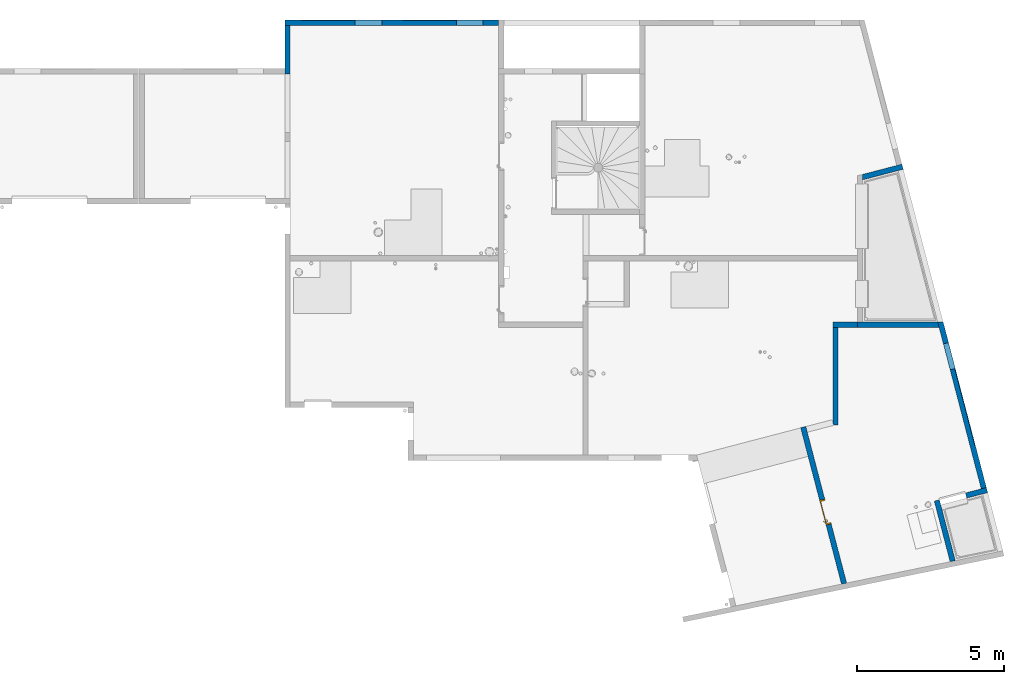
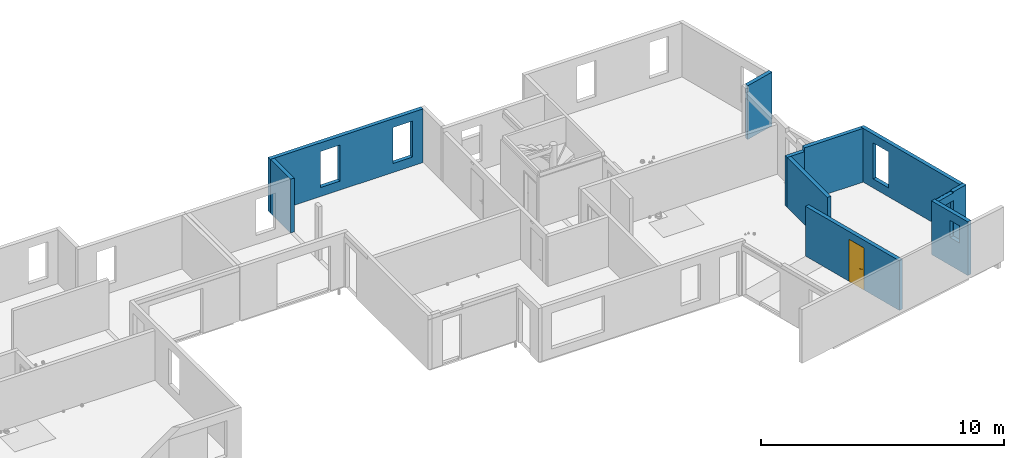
# One storey, part 18 of 30: 10 walls, 1 door, 14 openings.
"""IFC2X3 building model written with IfcOpenShell, lengths in centimetres."""

from ifc_helpers import new_model, entity, si_unit, converted_unit, derived_unit, direction, frame, frame_2d, origin, place, context, subcontext, project, spatial, polyline, rectangle, outline, extrude, faceted_brep, source, transform, mapped, material, material_list, layer, layer_set, layer_usage, type_object, type_shapes, element, fill, save


model = new_model("IFC2X3")

# Units and contexts
model_context = context("Model", 3, precision=0.001, world=origin(), true_north=direction((6.12303176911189e-17, 1.0)))
body_context = subcontext(model_context, "Body", "Model", "MODEL_VIEW")
ifc_project = project(units=[si_unit("LENGTHUNIT", "METRE", prefix="CENTI"), si_unit("AREAUNIT", "SQUARE_METRE"), si_unit("VOLUMEUNIT", "CUBIC_METRE"), converted_unit("PLANEANGLEUNIT", "DEGREE", entity("IfcRatioMeasure", 0.0174532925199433), si_unit("PLANEANGLEUNIT", "RADIAN"), dimensions=[0, 0, 0, 0, 0, 0, 0]), si_unit("MASSUNIT", "GRAM", prefix="KILO"), derived_unit("MASSDENSITYUNIT", [(si_unit("MASSUNIT", "GRAM", prefix="KILO"), 1), (si_unit("LENGTHUNIT", "METRE"), -3)]), si_unit("TIMEUNIT", "SECOND"), si_unit("FREQUENCYUNIT", "HERTZ"), si_unit("THERMODYNAMICTEMPERATUREUNIT", "DEGREE_CELSIUS"), derived_unit("THERMALTRANSMITTANCEUNIT", [(si_unit("MASSUNIT", "GRAM", prefix="KILO"), 1), (si_unit("THERMODYNAMICTEMPERATUREUNIT", "KELVIN"), -1), (si_unit("TIMEUNIT", "SECOND"), -3)]), derived_unit("VOLUMETRICFLOWRATEUNIT", [(si_unit("LENGTHUNIT", "METRE"), 3), (si_unit("TIMEUNIT", "SECOND"), -1)]), si_unit("ELECTRICCURRENTUNIT", "AMPERE"), si_unit("ELECTRICVOLTAGEUNIT", "VOLT"), si_unit("POWERUNIT", "WATT"), si_unit("FORCEUNIT", "NEWTON"), si_unit("ILLUMINANCEUNIT", "LUX"), si_unit("LUMINOUSFLUXUNIT", "LUMEN"), si_unit("LUMINOUSINTENSITYUNIT", "CANDELA"), derived_unit("USERDEFINED", [(si_unit("MASSUNIT", "GRAM", prefix="KILO"), -1), (si_unit("LENGTHUNIT", "METRE"), -2), (si_unit("TIMEUNIT", "SECOND"), 3), (si_unit("LUMINOUSFLUXUNIT", "LUMEN"), 1)]), derived_unit("LINEARVELOCITYUNIT", [(si_unit("LENGTHUNIT", "METRE"), 1), (si_unit("TIMEUNIT", "SECOND"), -1)]), si_unit("PRESSUREUNIT", "PASCAL"), derived_unit("USERDEFINED", [(si_unit("LENGTHUNIT", "METRE"), -2), (si_unit("MASSUNIT", "GRAM", prefix="KILO"), 1), (si_unit("TIMEUNIT", "SECOND"), -2)])], contexts=[model_context])

# Site, building, storey
site_placement = place(None, origin())
site = spatial("IfcSite", under=ifc_project, at=site_placement, Name="Default", CompositionType="ELEMENT")
building_placement = place(site_placement, origin())
building = spatial("IfcBuilding", under=site, at=building_placement, Name="CAGE 03", CompositionType="ELEMENT")
storey_placement = place(building_placement, frame((0.0, 0.0, 610.0)))
storey = spatial("IfcBuildingStorey", under=building, at=storey_placement, Name="R+2", CompositionType="ELEMENT", Elevation=610.0)

# Wall, openings
ifc_material_1 = material(Name="Béton, C25/30")
ifc_layer = layer(ifc_material_1, 18.0)
ifc_layer_set = layer_set([ifc_layer], Name="Mur de base:Voile BA 18")
ifc_layer_usage_1 = layer_usage(ifc_layer_set, "AXIS2", "POSITIVE", -9.0)
wall_type = type_object("IfcWallType", Name="Mur de base:Voile BA 18", PredefinedType="STANDARD", material=ifc_layer_set)
wall_1_placement = place(storey_placement, frame((11554.520882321, 3453.61460927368, 0.0), z_axis=(0.0, 0.0, 1.0), x_axis=(-0.252679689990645, 0.967549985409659, 0.0)))
wall_1 = element("IfcWallStandardCase", 1, at=wall_1_placement, inside=storey, type_object=wall_type, material=ifc_layer_usage_1, Name="Mur de base:Voile BA 18", ObjectType="Mur de base:Voile BA 18", context=body_context, shape_type="SweptSolid", body=[
    extrude(outline(polyline([(0.940291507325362, 9.0), (0.0, -9.0), (195.9684546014, -9.0), (213.9684546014, -9.0), (213.9684546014, 9.0), (0.940291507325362, 9.0)])), origin(), (0.0, 0.0, 1.0), 270.0),
])
opening_1_placement = place(wall_1_placement, origin())
element("IfcOpeningElement", 2, at=opening_1_placement, cuts=wall_1, Name="Mur de base:Voile BA 18", ObjectType="Opening", context=body_context, shape_type="SweptSolid", body=[
    extrude(rectangle(XDim=226.0, YDim=18.0000000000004, at=frame_2d((-4.2810199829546e-13, 5.6843418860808e-14), x_axis=(0.0, 1.0))), frame((204.968454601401, -100.0, 113.0), z_axis=(0.0, 1.0, 0.0), x_axis=(1.0, 0.0, 0.0)), (0.0, 0.0, 1.0), 91.0000000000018),
])
opening_2_placement = place(wall_1_placement, origin())
element("IfcOpeningElement", 3, at=opening_2_placement, cuts=wall_1, Name="Mur de base:Voile BA 18", ObjectType="Opening", context=body_context, shape_type="SweptSolid", body=[
    extrude(rectangle(XDim=226.0, YDim=18.0000000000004, at=frame_2d((-4.2810199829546e-13, 1.13686837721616e-13), x_axis=(0.0, 1.0))), frame((204.968454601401, -100.0, 383.0), z_axis=(0.0, 1.0, 0.0), x_axis=(1.0, 0.0, 0.0)), (0.0, 0.0, 1.0), 91.0000000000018),
])
opening_3_placement = place(wall_1_placement, frame((-421.952010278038, 12052.2347799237, 0.0), z_axis=(0.0, 0.0, 1.0), x_axis=(-0.252679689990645, -0.967549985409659, 0.0)))
element("IfcOpeningElement", 4, at=opening_3_placement, cuts=wall_1, Name="Mur de base:Voile BA 18", ObjectType="Opening", context=body_context, shape_type="SweptSolid", body=[
    extrude(rectangle(XDim=85.9999999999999, YDim=54.9999999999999, at=frame_2d((0.0, -4.2810199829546e-13), x_axis=(1.0, 0.0))), frame((11691.1087448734, 3569.35171335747, 183.0), z_axis=(-0.967549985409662, -0.252679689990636, 0.0), x_axis=(0.0, 0.0, 1.0)), (0.0, 0.0, 1.0), 304.799999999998),
])

ifc_layer_usage_2 = layer_usage(ifc_layer_set, "AXIS2", "POSITIVE", -9.0)
wall_2_placement = place(storey_placement, frame((11511.4374666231, 3654.20595174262, 0.0), z_axis=(0.0, 0.0, 1.0), x_axis=(0.967549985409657, 0.252679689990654, 0.0)))
wall_2 = element("IfcWallStandardCase", 5, at=wall_2_placement, inside=storey, type_object=wall_type, material=ifc_layer_usage_2, Name="Mur de base:Voile BA 18", ObjectType="Mur de base:Voile BA 18", context=body_context, shape_type="SweptSolid", body=[
    extrude(rectangle(XDim=165.000000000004, YDim=17.9999999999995, at=frame_2d((82.5000000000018, -2.64677169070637e-13), x_axis=(-1.0, 0.0))), origin(), (0.0, 0.0, 1.0), 270.0),
])
opening_4_placement = place(wall_2_placement, frame((-5.86752552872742, -7.46767138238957, 265.0)))
element("IfcOpeningElement", 6, at=opening_4_placement, cuts=wall_2, Name="Mur de base:Voile BA 18", ObjectType="Opening", context=body_context, shape_type="Brep", body=[
    faceted_brep([(5.86752552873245, 22.4676713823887, 2.50000000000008), (5.8675255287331, 15.4676713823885, 0.971325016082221), (5.8675255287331, 15.4676713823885, 0.0), (5.86752552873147, -1.53232861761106, 0.0), (5.86752552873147, -1.53232861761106, 5.0), (5.86752552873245, 22.4676713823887, 5.0), (96.8675255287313, 22.4676713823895, 2.50000000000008), (96.8675255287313, 22.4676713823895, 5.0), (96.8675255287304, -1.53232861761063, 5.0), (96.8675255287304, -1.53232861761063, 0.0), (96.8675255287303, 15.4676713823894, 0.0), (96.8675255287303, 15.4676713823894, 0.971325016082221)], [[[0, 1, 2, 3, 4, 5]], [[6, 7, 8, 9, 10, 11]], [[4, 3, 9, 8]], [[5, 4, 8, 7]], [[0, 5, 7, 6]], [[1, 0, 6, 11]], [[2, 1, 11, 10]], [[3, 2, 10, 9]]]),
])
opening_5_placement = place(wall_2_placement, origin())
element("IfcOpeningElement", 7, at=opening_5_placement, cuts=wall_2, Name="Mur de base:Voile BA 18", ObjectType="Opening", context=body_context, shape_type="SweptSolid", body=[
    extrude(rectangle(XDim=226.0, YDim=90.9999999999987, at=frame_2d((5.6843418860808e-14, -1.13686837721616e-13), x_axis=(0.0, 1.0))), frame((45.5000000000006, -161.4, 383.0), z_axis=(0.0, 1.0, 0.0), x_axis=(-1.0, 0.0, 0.0)), (0.0, 0.0, 1.0), 304.799999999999),
])
opening_6_placement = place(wall_2_placement, frame((-12061.2347799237, -626.920464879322, 0.0), z_axis=(0.0, 0.0, 1.0), x_axis=(0.967549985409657, -0.252679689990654, 0.0)))
element("IfcOpeningElement", 8, at=opening_6_placement, cuts=wall_2, Name="Mur de base:Voile BA 18", ObjectType="Opening", context=body_context, shape_type="SweptSolid", body=[
    extrude(rectangle(XDim=226.0, YDim=90.9999999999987, at=frame_2d((5.6843418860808e-14, -5.6843418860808e-14), x_axis=(0.0, 1.0))), frame((11596.2434929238, 3509.54030999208, 113.0), z_axis=(-0.252679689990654, 0.967549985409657, 0.0), x_axis=(-0.967549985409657, -0.252679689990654, 0.0)), (0.0, 0.0, 1.0), 304.799999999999),
])

ifc_layer_usage_3 = layer_usage(ifc_layer_set, "AXIS2", "POSITIVE", -9.0)
wall_3_placement = place(storey_placement, frame((11660.1011471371, 3702.33193324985, 0.0), z_axis=(0.0, 0.0, 1.0), x_axis=(-0.25267968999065, 0.967549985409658, 0.0)))
wall_3 = element("IfcWallStandardCase", 9, at=wall_3_placement, inside=storey, type_object=wall_type, material=ifc_layer_usage_3, Name="Mur de base:Voile BA 18", ObjectType="Mur de base:Voile BA 18", context=body_context, shape_type="SweptSolid", body=[
    extrude(outline(polyline([(580.904991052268, -9.0), (585.605765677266, 9.0), (567.002075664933, 9.0), (0.0, 9.0), (0.0, -9.0), (580.904991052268, -9.0)])), origin(), (0.0, 0.0, 1.0), 270.0),
])
opening_7_placement = place(wall_3_placement, origin())
element("IfcOpeningElement", 10, at=opening_7_placement, cuts=wall_3, Name="Mur de base:Voile BA 18", ObjectType="Recess", context=body_context, shape_type="SweptSolid", body=[
    extrude(rectangle(XDim=181.0, YDim=273.0, at=frame_2d((-2.1316282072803e-13, 1.06581410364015e-13), x_axis=(0.0, 1.0))), frame((281.500000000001, -9.0, 135.5), z_axis=(0.0, 1.0, 0.0), x_axis=(1.0, 0.0, 0.0)), (0.0, 0.0, 1.0), 1.99999999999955),
])
opening_8_placement = place(wall_3_placement, origin())
element("IfcOpeningElement", 11, at=opening_8_placement, cuts=wall_3, Name="Mur de base:Voile BA 18", ObjectType="Recess", context=body_context, shape_type="SweptSolid", body=[
    extrude(rectangle(XDim=181.0, YDim=184.0, at=frame_2d((4.2632564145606e-13, 5.6843418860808e-14), x_axis=(0.0, 1.0))), frame((1374.0, -9.0, 135.5), z_axis=(0.0, 1.0, 0.0), x_axis=(1.0, 0.0, 0.0)), (0.0, 0.0, 1.0), 2.00000000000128),
])
opening_9_placement = place(wall_3_placement, frame((-635.920464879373, 12217.2347799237, 0.0), z_axis=(0.0, 0.0, 1.0), x_axis=(-0.25267968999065, -0.967549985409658, 0.0)))
element("IfcOpeningElement", 12, at=opening_9_placement, cuts=wall_3, Name="Mur de base:Voile BA 18", ObjectType="Opening", context=body_context, shape_type="SweptSolid", body=[
    extrude(rectangle(XDim=181.0, YDim=91.0000000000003, at=frame_2d((0.0, -2.16715534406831e-13), x_axis=(1.0, 0.0))), frame((11699.1466784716, 4191.57385345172, 135.5), z_axis=(-0.967549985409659, -0.252679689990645, 0.0), x_axis=(0.0, 0.0, 1.0)), (0.0, 0.0, 1.0), 304.8),
])

# Walls
ifc_layer_usage_4 = layer_usage(ifc_layer_set, "AXIS2", "POSITIVE", -9.0)
wall_4_placement = place(storey_placement, frame((11508.1232885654, 4257.66066607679, 0.0), z_axis=(0.0, 0.0, 1.0), x_axis=(-1.0, 0.0, 0.0)))
element("IfcWallStandardCase", 13, at=wall_4_placement, inside=storey, type_object=wall_type, material=ifc_layer_usage_4, Name="Mur de base:Voile BA 18", ObjectType="Mur de base:Voile BA 18", context=body_context, shape_type="SweptSolid", body=[
    extrude(outline(polyline([(277.7574684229, -9.0), (277.7574684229, 9.0), (0.0, 9.0), (4.70077462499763, -9.0), (259.7574684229, -9.0), (277.7574684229, -9.0)])), origin(), (0.0, 0.0, 1.0), 270.0),
])
ifc_layer_usage_5 = layer_usage(ifc_layer_set, "AXIS2", "POSITIVE", -9.0)
wall_5_placement = place(storey_placement, frame((11155.8658201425, 4248.66066607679, 0.0), z_axis=(0.0, 0.0, 1.0), x_axis=(0.0, -1.0, 0.0)))
element("IfcWallStandardCase", 14, at=wall_5_placement, inside=storey, type_object=wall_type, material=ifc_layer_usage_5, Name="Mur de base:Voile BA 18", ObjectType="Mur de base:Voile BA 18", context=body_context, shape_type="SweptSolid", body=[
    extrude(rectangle(XDim=331.0, YDim=17.9999999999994, at=frame_2d((165.5, 4.11226608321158e-13), x_axis=(-1.0, 0.0))), origin(), (0.0, 0.0, 1.0), 250.0),
])

# Wall, opening, door
ifc_layer_usage_6 = layer_usage(ifc_layer_set, "AXIS2", "POSITIVE", -9.0)
wall_6_placement = place(storey_placement, frame((11046.2188604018, 3909.95367592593, 0.0), z_axis=(0.0, 0.0, 1.0), x_axis=(0.252679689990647, -0.967549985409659, 0.0)))
wall_6 = element("IfcWallStandardCase", 15, at=wall_6_placement, inside=storey, type_object=wall_type, material=ifc_layer_usage_6, Name="Mur de base:Voile BA 18", ObjectType="Mur de base:Voile BA 18", context=body_context, shape_type="SweptSolid", body=[
    extrude(outline(polyline([(0.0, -9.0), (549.360399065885, -9.0), (550.300690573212, 9.0), (0.0, 9.0), (0.0, -9.0)])), origin(), (0.0, 0.0, 1.0), 250.0),
])
opening_10_placement = place(wall_6_placement, frame((342.0, 9.0, 0.0)))
opening_10 = element("IfcOpeningElement", 16, at=opening_10_placement, cuts=wall_6, Name="Int. Simple:HB83:1", ObjectType="Opening", context=body_context, shape_type="SweptSolid", body=[
    extrude(rectangle(XDim=210.000000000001, YDim=86.9999999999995, at=frame_2d((105.000000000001, 43.4999999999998), x_axis=(1.0, 0.0))), frame((0.0, 0.0, 0.0), z_axis=(0.0, -1.0, 0.0), x_axis=(0.0, 0.0, 1.0)), (0.0, 0.0, 1.0), 18.0),
])
ifc_material_2 = material(Name="Finition Peinture - Blanc satiné")
ifc_material_3 = material(Name="Bois - Panneau de porte")
ifc_material_4 = material(Name="Bois - Cadre de porte")
ifc_material_list_1 = material_list([ifc_material_2, ifc_material_3, ifc_material_4])
ifc_material_list_2 = material_list([ifc_material_2, ifc_material_3, ifc_material_4])
door_style = type_object("IfcDoorStyle", Name="HB83", ConstructionType="NOTDEFINED", OperationType="SINGLE_SWING_RIGHT", ParameterTakesPrecedence=False, Sizeable=False, material=ifc_material_list_2)
shared_shape = source(origin(), body_context, "Body", "Brep", [
    faceted_brep([(86.5000000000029, -0.500000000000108, 87.0), (86.5000000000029, -0.500000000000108, 108.0), (85.535276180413, -0.500000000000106, 108.399601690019), (84.5000000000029, -0.500000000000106, 108.535898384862), (83.4647238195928, -0.500000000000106, 108.399601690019), (82.500000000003, -0.500000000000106, 108.0), (82.5000000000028, -0.500000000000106, 87.0), (83.4647238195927, -0.500000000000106, 86.6003983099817), (84.5000000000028, -0.500000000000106, 86.464101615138), (85.5352761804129, -0.500000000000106, 86.6003983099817), (86.5000000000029, 0.0, 108.0), (86.5000000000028, 0.0, 87.0), (85.5352761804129, 0.0, 86.6003983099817), (84.5000000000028, 0.0, 86.464101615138), (83.4647238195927, 0.0, 86.6003983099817), (82.5000000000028, 0.0, 87.0), (82.500000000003, 0.0, 108.0), (83.4647238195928, 0.0, 108.399601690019), (84.5000000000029, 0.0, 108.535898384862), (85.535276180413, 0.0, 108.399601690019)], [[[0, 1, 2, 3, 4, 5, 6, 7, 8, 9]], [[10, 11, 12, 13, 14, 15, 16, 17, 18, 19]], [[9, 12, 11, 0]], [[8, 13, 12, 9]], [[7, 14, 13, 8]], [[7, 6, 15, 14]], [[15, 6, 5, 16]], [[4, 17, 16, 5]], [[3, 18, 17, 4]], [[2, 19, 18, 3]], [[2, 1, 10, 19]], [[11, 10, 1, 0]]]),
    faceted_brep([(86.5000000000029, 3.0, 87.0), (86.5000000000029, 3.0, 108.0), (85.535276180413, 3.0, 108.399601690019), (84.500000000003, 3.0, 108.535898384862), (83.4647238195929, 3.0, 108.399601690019), (82.500000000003, 3.0, 108.0), (82.5000000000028, 3.0, 87.0), (83.4647238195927, 3.0, 86.6003983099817), (84.5000000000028, 3.0, 86.464101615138), (85.5352761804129, 3.0, 86.6003983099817), (84.500000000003, 3.49999999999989, 108.535898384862), (85.535276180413, 3.49999999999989, 108.399601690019), (86.5000000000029, 3.49999999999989, 108.0), (86.5000000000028, 3.49999999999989, 87.0), (85.5352761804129, 3.49999999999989, 86.6003983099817), (84.5000000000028, 3.49999999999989, 86.464101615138), (83.4647238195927, 3.49999999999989, 86.6003983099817), (82.5000000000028, 3.49999999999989, 87.0), (82.500000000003, 3.49999999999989, 108.0), (83.4647238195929, 3.49999999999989, 108.399601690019)], [[[0, 1, 2, 3, 4, 5, 6, 7, 8, 9]], [[10, 11, 12, 13, 14, 15, 16, 17, 18, 19]], [[4, 19, 18, 5]], [[3, 10, 19, 4]], [[2, 11, 10, 3]], [[2, 1, 12, 11]], [[13, 12, 1, 0]], [[9, 14, 13, 0]], [[8, 15, 14, 9]], [[7, 16, 15, 8]], [[7, 6, 17, 16]], [[17, 6, 5, 18]]]),
    faceted_brep([(84.297470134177, -0.500000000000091, 100.778044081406), (84.7025298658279, -0.500000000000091, 100.778044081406), (85.1000000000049, -0.500000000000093, 100.699999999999), (85.1000000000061, -0.500000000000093, 99.299999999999), (84.702529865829, -0.500000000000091, 99.2219559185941), (84.297470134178, -0.500000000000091, 99.2219559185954), (83.9000000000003, -0.500000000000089, 99.3000000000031), (83.9000000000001, -0.500000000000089, 100.7), (84.7025298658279, -3.1004575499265, 100.778044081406), (85.1000000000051, -3.26509507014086, 100.7), (84.297470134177, -2.93267631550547, 100.778044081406), (82.9298602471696, -4.30028620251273, 100.778044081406), (83.0976414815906, -4.70534593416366, 100.778044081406), (83.9000000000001, -2.76803879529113, 100.7), (83.9000000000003, -2.76803879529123, 99.3000000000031), (84.297470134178, -2.93267631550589, 99.2219559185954), (84.702529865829, -3.10045754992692, 99.2219559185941), (83.097641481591, -4.70534593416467, 99.2219559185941), (82.92986024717, -4.30028620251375, 99.2219559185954), (85.1000000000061, -3.26509507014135, 99.299999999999), (83.2622790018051, -5.10281606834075, 100.7), (82.7652227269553, -3.90281606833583, 100.7), (82.7652227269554, -3.90281606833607, 99.3000000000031), (83.2622790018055, -5.10281606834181, 99.299999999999), (74.4981359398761, -5.1028160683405, 100.7), (74.4981359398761, -4.7053459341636, 100.778044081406), (74.4981359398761, -4.30028620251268, 100.778044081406), (74.4981359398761, -3.90281606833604, 100.699999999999), (74.4981359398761, -3.90281606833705, 99.3000000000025), (74.4981359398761, -4.30028620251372, 99.2219559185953), (74.4981359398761, -4.70534593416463, 99.2219559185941), (74.4981359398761, -5.10281606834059, 99.2999999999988), (78.7139980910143, -4.50281606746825, 100.78786867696), (79.2692302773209, -5.10281606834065, 100.7), (78.6316793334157, -3.90281606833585, 100.7), (78.6316793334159, -3.90281606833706, 99.3000000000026), (78.7139981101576, -4.50281607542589, 99.2121313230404), (79.2692299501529, -5.10281606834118, 99.2999999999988)], [[[0, 1, 2, 3, 4, 5, 6, 7]], [[2, 1, 8, 9]], [[1, 0, 10, 11, 12, 8]], [[0, 7, 13, 10]], [[14, 13, 7, 6]], [[5, 15, 14, 6]], [[5, 4, 16, 17, 18, 15]], [[3, 19, 16, 4]], [[9, 19, 3, 2]], [[9, 8, 12, 20]], [[10, 13, 21, 11]], [[22, 21, 13, 14]], [[14, 15, 18, 22]], [[16, 19, 23, 17]], [[20, 23, 19, 9]], [[24, 25, 26, 27, 28, 29, 30, 31]], [[32, 25, 33]], [[33, 25, 24]], [[33, 20, 12]], [[11, 34, 32]], [[34, 11, 21]], [[27, 26, 34]], [[32, 26, 25]], [[32, 34, 26]], [[32, 33, 12]], [[11, 32, 12]], [[21, 22, 35, 28, 27, 34]], [[36, 29, 35]], [[30, 36, 37]], [[18, 35, 22]], [[29, 28, 35]], [[30, 37, 31]], [[37, 17, 23]], [[36, 17, 37]], [[36, 18, 17]], [[36, 35, 18]], [[29, 36, 30]], [[23, 20, 33, 24, 31, 37]]]),
    faceted_brep([(84.2974701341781, 3.49999999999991, 99.2219559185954), (84.702529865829, 3.49999999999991, 99.2219559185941), (85.1000000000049, 3.4999999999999, 99.2999999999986), (85.1000000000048, 3.4999999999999, 100.7), (84.7025298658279, 3.49999999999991, 100.778044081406), (84.297470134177, 3.49999999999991, 100.778044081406), (83.9000000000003, 3.49999999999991, 100.7), (83.9000000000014, 3.49999999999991, 99.3000000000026), (83.9000000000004, 5.74852045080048, 100.7), (83.9000000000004, 5.74852045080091, 99.3000000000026), (84.2974701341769, 5.91315797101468, 100.778044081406), (84.7025298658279, 6.08093920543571, 100.778044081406), (83.0838906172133, 7.69957845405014, 100.778044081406), (82.9161093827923, 7.29451872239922, 100.778044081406), (85.1000000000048, 6.24557672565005, 100.7), (85.1000000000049, 6.2455767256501, 99.2999999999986), (84.702529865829, 6.08093920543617, 99.2219559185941), (84.2974701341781, 5.91315797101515, 99.2219559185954), (82.9161093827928, 7.29451872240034, 99.2219559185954), (83.0838906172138, 7.69957845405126, 99.2219559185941), (82.7514718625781, 6.89704858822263, 100.7), (82.7514718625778, 6.89704858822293, 99.3000000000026), (83.2485281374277, 8.09704858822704, 100.7), (83.2485281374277, 8.09704858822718, 99.2999999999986), (74.4954216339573, 7.29451872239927, 100.778044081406), (74.4954216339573, 7.6995784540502, 100.778044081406), (74.4954216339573, 8.0970485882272, 100.7), (74.4954216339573, 8.09704858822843, 99.299999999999), (74.4954216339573, 7.6995784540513, 99.2219559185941), (74.4954216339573, 7.29451872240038, 99.2219559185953), (74.4954216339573, 6.89704858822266, 99.3000000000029), (74.4954216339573, 6.89704858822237, 100.7), (78.6234467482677, 6.89704858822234, 100.7), (78.6234479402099, 6.89704858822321, 99.3000000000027), (78.7057655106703, 7.4970485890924, 100.78786867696), (79.255479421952, 8.09704858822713, 100.7), (79.2554794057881, 8.09704858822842, 99.299999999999), (78.7057654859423, 7.49704858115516, 99.2121313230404)], [[[0, 1, 2, 3, 4, 5, 6, 7]], [[8, 9, 7, 6]], [[5, 10, 8, 6]], [[5, 4, 11, 12, 13, 10]], [[3, 14, 11, 4]], [[14, 3, 2, 15]], [[2, 1, 16, 15]], [[1, 0, 17, 18, 19, 16]], [[0, 7, 9, 17]], [[20, 21, 9, 8]], [[8, 10, 13, 20]], [[14, 22, 12, 11]], [[23, 22, 14, 15]], [[15, 16, 19, 23]], [[17, 9, 21, 18]], [[24, 25, 26, 27, 28, 29, 30, 31]], [[20, 32, 31, 30, 33, 21]], [[34, 24, 32]], [[25, 34, 35]], [[13, 32, 20]], [[24, 31, 32]], [[25, 35, 26]], [[35, 12, 22]], [[34, 12, 35]], [[34, 13, 12]], [[34, 32, 13]], [[24, 34, 25]], [[22, 23, 36, 27, 26, 35]], [[37, 28, 36]], [[36, 28, 27]], [[36, 23, 19]], [[18, 33, 37]], [[33, 18, 21]], [[30, 29, 33]], [[37, 29, 28]], [[37, 33, 29]], [[37, 36, 19]], [[18, 37, 19]]]),
    faceted_brep([(90.5000000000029, 3.0, 206.5), (90.5000000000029, 3.0, 0.0), (10.5000000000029, 3.0, 0.0), (10.5000000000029, 3.0, 206.5), (90.5000000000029, 0.0, 206.5), (10.5000000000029, 0.0, 206.5), (10.5000000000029, 0.0, 0.0), (90.5000000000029, 0.0, 0.0)], [[[0, 1, 2, 3]], [[4, 5, 6, 7]], [[3, 5, 4, 0]], [[2, 6, 5, 3]], [[1, 7, 6, 2]], [[0, 4, 7, 1]]]),
    faceted_brep([(94.0, 0.0, 0.0), (90.5000000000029, 0.0, 0.0), (90.5000000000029, 3.0, 0.0), (89.0, 3.0, 0.0), (89.0, 18.0, 0.0), (94.0, 18.0, 0.0), (94.0, 18.0, 210.0), (94.0, 0.0, 210.0), (89.0, 18.0, 205.0), (12.0, 18.0, 205.0), (12.0, 18.0, 0.0), (7.0, 18.0, 0.0), (7.0, 18.0, 210.0), (89.0, 3.0, 205.0), (90.5000000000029, 3.0, 206.5), (10.5000000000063, 3.0, 206.5), (10.5000000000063, 3.0, 0.0), (12.0, 3.0, 0.0), (12.0, 3.0, 205.0), (90.5000000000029, 0.0, 206.5), (7.0, 0.0, 210.0), (7.0, 0.0, 0.0), (10.5000000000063, 0.0, 0.0), (10.5000000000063, 0.0, 206.5)], [[[0, 1, 2, 3, 4, 5]], [[5, 6, 7, 0]], [[4, 8, 9, 10, 11, 12, 6, 5]], [[3, 13, 8, 4]], [[2, 14, 15, 16, 17, 18, 13, 3]], [[1, 19, 14, 2]], [[0, 7, 20, 21, 22, 23, 19, 1]], [[12, 11, 21, 20]], [[21, 11, 10, 17, 16, 22]], [[18, 17, 10, 9]], [[23, 22, 16, 15]], [[6, 12, 20, 7]], [[13, 18, 9, 8]], [[19, 23, 15, 14]]]),
    faceted_brep([(92.5000000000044, 18.0, 0.0), (92.5000000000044, 18.5000000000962, 0.0), (95.5000000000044, 18.5000000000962, 0.0), (95.5000000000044, 18.0, 0.0), (95.5000000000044, 18.0, 211.500000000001), (5.50000000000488, 18.0, 211.500000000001), (5.50000000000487, 18.0, 0.0), (8.50000000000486, 18.0, 0.0), (8.50000000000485, 18.0, 208.500000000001), (92.5000000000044, 18.0, 208.500000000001), (95.5000000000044, 18.5000000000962, 211.500000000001), (92.5000000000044, 18.5000000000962, 208.500000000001), (8.50000000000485, 18.5000000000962, 208.500000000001), (8.50000000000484, 18.5000000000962, 0.0), (5.50000000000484, 18.5000000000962, 0.0), (5.50000000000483, 18.5000000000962, 211.500000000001)], [[[0, 1, 2, 3]], [[3, 4, 5, 6, 7, 8, 9, 0]], [[2, 10, 4, 3]], [[1, 11, 12, 13, 14, 15, 10, 2]], [[0, 9, 11, 1]], [[7, 6, 14, 13]], [[8, 7, 13, 12]], [[15, 14, 6, 5]], [[10, 15, 5, 4]], [[9, 8, 12, 11]]]),
    faceted_brep([(95.5000000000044, -0.5, 0.0), (95.5000000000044, -0.5, 211.500000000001), (5.50000000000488, -0.5, 211.500000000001), (5.50000000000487, -0.5, 0.0), (8.50000000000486, -0.5, 0.0), (8.50000000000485, -0.5, 208.500000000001), (92.5000000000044, -0.5, 208.500000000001), (92.5000000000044, -0.5, 0.0), (95.5000000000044, 0.0, 0.0), (95.5000000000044, 0.0, 211.500000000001), (92.5000000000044, 0.0, 0.0), (92.5000000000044, 0.0, 208.500000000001), (8.50000000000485, 0.0, 208.500000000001), (8.50000000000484, 0.0, 0.0), (5.50000000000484, 0.0, 0.0), (5.50000000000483, 0.0, 211.500000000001)], [[[0, 1, 2, 3, 4, 5, 6, 7]], [[8, 9, 1, 0]], [[10, 11, 12, 13, 14, 15, 9, 8]], [[7, 6, 11, 10]], [[5, 4, 13, 12]], [[15, 14, 3, 2]], [[9, 15, 2, 1]], [[6, 5, 12, 11]], [[4, 3, 14, 13]], [[7, 10, 8, 0]]]),
])
type_shapes(door_style, [shared_shape])
door_placement = place(opening_10_placement, frame((-94.0, -18.0, 0.0)))
door = element("IfcDoor", 17, at=door_placement, inside=storey, type_object=door_style, material=ifc_material_list_1, Name="Int. Simple:HB83", ObjectType="HB83", OverallHeight=210.000000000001, OverallWidth=86.9999999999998, context=body_context, shape_type="MappedRepresentation", body=[
    mapped(shared_shape, transform((0.0, 0.0, 0.0), scale=1.0)),
])
fill(opening_10, door)

# Wall
ifc_layer_usage_7 = layer_usage(ifc_layer_set, "AXIS2", "NEGATIVE", 9.0)
wall_7_placement = place(storey_placement, frame((11246.0917029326, 4759.00935292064, 0.0), z_axis=(0.0, 0.0, 1.0), x_axis=(0.96754998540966, 0.252679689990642, 0.0)))
element("IfcWallStandardCase", 18, at=wall_7_placement, inside=storey, type_object=wall_type, material=ifc_layer_usage_7, Name="Mur de base:Voile BA 18", ObjectType="Mur de base:Voile BA 18", context=body_context, shape_type="SweptSolid", body=[
    extrude(outline(polyline([(142.57390887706, -9.0), (142.57390887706, 9.0), (124.573908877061, 9.0), (4.70077462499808, 9.0), (0.0, -9.0), (142.57390887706, -9.0)])), origin(), (0.0, 0.0, 1.0), 270.0),
])

# Wall, openings
ifc_layer_usage_8 = layer_usage(ifc_layer_set, "AXIS2", "POSITIVE", -9.0)
wall_8_placement = place(storey_placement, frame((10010.3658201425, 5284.66066607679, 0.0), z_axis=(0.0, 0.0, 1.0), x_axis=(-1.0, 0.0, 0.0)))
wall_8 = element("IfcWallStandardCase", 19, at=wall_8_placement, inside=storey, type_object=wall_type, material=ifc_layer_usage_8, Name="Mur de base:Voile BA 18", ObjectType="Mur de base:Voile BA 18", context=body_context, shape_type="SweptSolid", body=[
    extrude(rectangle(XDim=726.0, YDim=17.9999999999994, at=frame_2d((363.0, -3.64153152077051e-14), x_axis=(-1.0, 0.0))), origin(), (0.0, 0.0, 1.0), 270.0),
])
opening_11_placement = place(wall_8_placement, origin())
element("IfcOpeningElement", 20, at=opening_11_placement, cuts=wall_8, Name="Mur de base:Voile BA 18", ObjectType="Recess", context=body_context, shape_type="SweptSolid", body=[
    extrude(rectangle(XDim=181.0, YDim=184.0, at=frame_2d((0.0, 5.6843418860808e-14), x_axis=(0.0, 1.0))), frame((579.0, -9.0, 135.500000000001), z_axis=(0.0, 1.0, 0.0), x_axis=(1.0, 0.0, 0.0)), (0.0, 0.0, 1.0), 1.99999999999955),
])
opening_12_placement = place(wall_8_placement, origin())
element("IfcOpeningElement", 21, at=opening_12_placement, cuts=wall_8, Name="Mur de base:Voile BA 18", ObjectType="Recess", context=body_context, shape_type="SweptSolid", body=[
    extrude(rectangle(XDim=181.0, YDim=184.0, at=frame_2d((0.0, 5.6843418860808e-14), x_axis=(0.0, 1.0))), frame((235.0, -9.0, 135.5), z_axis=(0.0, 1.0, 0.0), x_axis=(1.0, 0.0, 0.0)), (0.0, 0.0, 1.0), 1.99999999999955),
])
opening_13_placement = place(wall_8_placement, frame((10010.3658201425, 5284.66066607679, 0.0), z_axis=(0.0, 0.0, 1.0), x_axis=(-1.0, 0.0, 0.0)))
element("IfcOpeningElement", 22, at=opening_13_placement, cuts=wall_8, Name="Mur de base:Voile BA 18", ObjectType="Opening", context=body_context, shape_type="SweptSolid", body=[
    extrude(rectangle(XDim=181.0, YDim=90.9999999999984, at=frame_2d((8.66862137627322e-13, 0.0), x_axis=(0.0, 1.0))), frame((9568.86582014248, 5428.06066607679, 135.5), z_axis=(0.0, -1.0, 0.0), x_axis=(1.0, 0.0, 0.0)), (0.0, 0.0, 1.0), 304.8),
])
opening_14_placement = place(wall_8_placement, frame((10010.3658201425, 5284.66066607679, 0.0), z_axis=(0.0, 0.0, 1.0), x_axis=(-1.0, 0.0, 0.0)))
element("IfcOpeningElement", 23, at=opening_14_placement, cuts=wall_8, Name="Mur de base:Voile BA 18", ObjectType="Opening", context=body_context, shape_type="SweptSolid", body=[
    extrude(rectangle(XDim=181.0, YDim=90.9999999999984, at=frame_2d((8.66862137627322e-13, 0.0), x_axis=(0.0, 1.0))), frame((9912.86582014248, 5428.06066607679, 135.5), z_axis=(0.0, -1.0, 0.0), x_axis=(1.0, 0.0, 0.0)), (0.0, 0.0, 1.0), 304.8),
])

# Walls
ifc_layer_usage_9 = layer_usage(ifc_layer_set, "AXIS2", "POSITIVE", -9.0)
wall_9_placement = place(storey_placement, frame((9293.36582014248, 5275.66066607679, 0.0), z_axis=(0.0, 0.0, 1.0), x_axis=(0.0, -1.0, 0.0)))
element("IfcWallStandardCase", 24, at=wall_9_placement, inside=storey, type_object=wall_type, material=ifc_layer_usage_9, Name="Mur de base:Voile BA 18", ObjectType="Mur de base:Voile BA 18", context=body_context, shape_type="SweptSolid", body=[
    extrude(rectangle(XDim=165.000000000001, YDim=17.9999999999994, at=frame_2d((82.5000000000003, 0.0), x_axis=(-1.0, 0.0))), origin(), (0.0, 0.0, 1.0), 270.0),
])
ifc_layer_usage_10 = layer_usage(ifc_layer_set, "AXIS2", "POSITIVE", -9.0)
wall_10_placement = place(storey_placement, frame((11230.3658201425, 4257.66066607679, 0.0), z_axis=(0.0, 0.0, 1.0), x_axis=(-1.0, 0.0, 0.0)))
element("IfcWallStandardCase", 25, at=wall_10_placement, inside=storey, type_object=wall_type, material=ifc_layer_usage_10, Name="Mur de base:Voile BA 18", ObjectType="Mur de base:Voile BA 18", context=body_context, shape_type="SweptSolid", body=[
    extrude(rectangle(XDim=83.5000000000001, YDim=17.9999999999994, at=frame_2d((41.75, 1.31450406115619e-13), x_axis=(-1.0, 0.0))), origin(), (0.0, 0.0, 1.0), 250.0),
])

save(model, "model.ifc")
